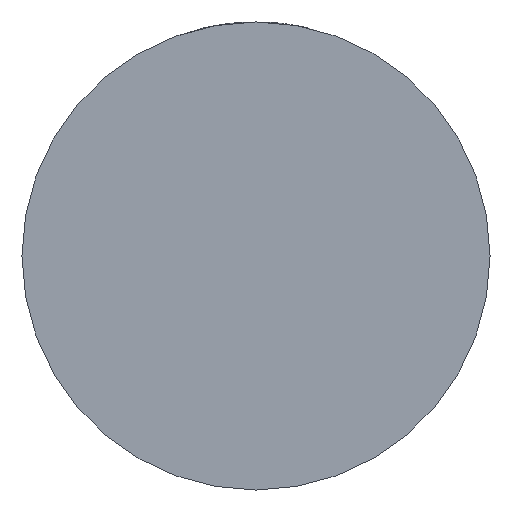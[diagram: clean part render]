
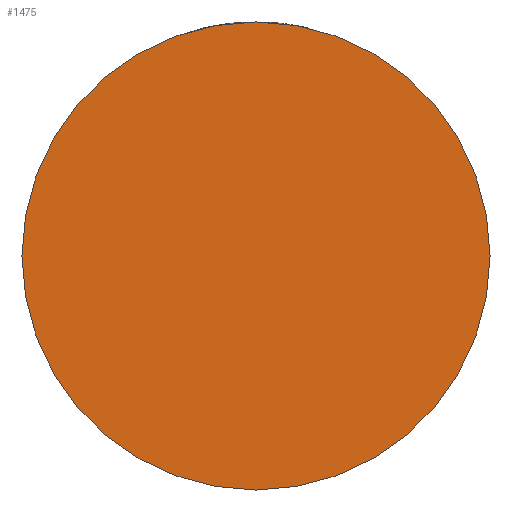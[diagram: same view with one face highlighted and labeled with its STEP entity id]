
A CAD part, front view. The second image highlights one B-rep face of the part: STEP entity #1475.
In plain terms, the highlighted planar face has unit normal (0, -1, 0).
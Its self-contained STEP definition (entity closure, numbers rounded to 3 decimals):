
#280 = AXIS2_PLACEMENT_3D ( 'NONE', #1797, #3424, #2849 ) ;
#891 = DIRECTION ( 'NONE',  ( 1., 0., 0. ) ) ;
#915 = AXIS2_PLACEMENT_3D ( 'NONE', #1947, #1606, #2973 ) ;
#1073 = CARTESIAN_POINT ( 'NONE',  ( -40., -28., 0. ) ) ;
#1226 = DIRECTION ( 'NONE',  ( 0., -1., 0. ) ) ;
#1445 = EDGE_LOOP ( 'NONE', ( #2768, #4311 ) ) ;
#1475 = ADVANCED_FACE ( 'NONE', ( #2285 ), #3632, .T. ) ;
#1606 = DIRECTION ( 'NONE',  ( 0., -1., 0. ) ) ;
#1784 = CIRCLE ( 'NONE', #280, 40. ) ;
#1797 = CARTESIAN_POINT ( 'NONE',  ( 0., -28., 0. ) ) ;
#1844 = CIRCLE ( 'NONE', #2064, 40. ) ;
#1927 = EDGE_CURVE ( 'NONE', #2946, #3541, #1844, .T. ) ;
#1947 = CARTESIAN_POINT ( 'NONE',  ( 0., -28., 0. ) ) ;
#2064 = AXIS2_PLACEMENT_3D ( 'NONE', #2524, #1226, #891 ) ;
#2285 = FACE_OUTER_BOUND ( 'NONE', #1445, .T. ) ;
#2321 = CARTESIAN_POINT ( 'NONE',  ( 40., -28., 0. ) ) ;
#2524 = CARTESIAN_POINT ( 'NONE',  ( 0., -28., 0. ) ) ;
#2768 = ORIENTED_EDGE ( 'NONE', *, *, #1927, .T. ) ;
#2849 = DIRECTION ( 'NONE',  ( 1., 0., 0. ) ) ;
#2946 = VERTEX_POINT ( 'NONE', #1073 ) ;
#2973 = DIRECTION ( 'NONE',  ( 1., 0., 0. ) ) ;
#3239 = EDGE_CURVE ( 'NONE', #3541, #2946, #1784, .T. ) ;
#3424 = DIRECTION ( 'NONE',  ( 0., -1., 0. ) ) ;
#3541 = VERTEX_POINT ( 'NONE', #2321 ) ;
#3632 = PLANE ( 'NONE',  #915 ) ;
#4311 = ORIENTED_EDGE ( 'NONE', *, *, #3239, .T. ) ;
